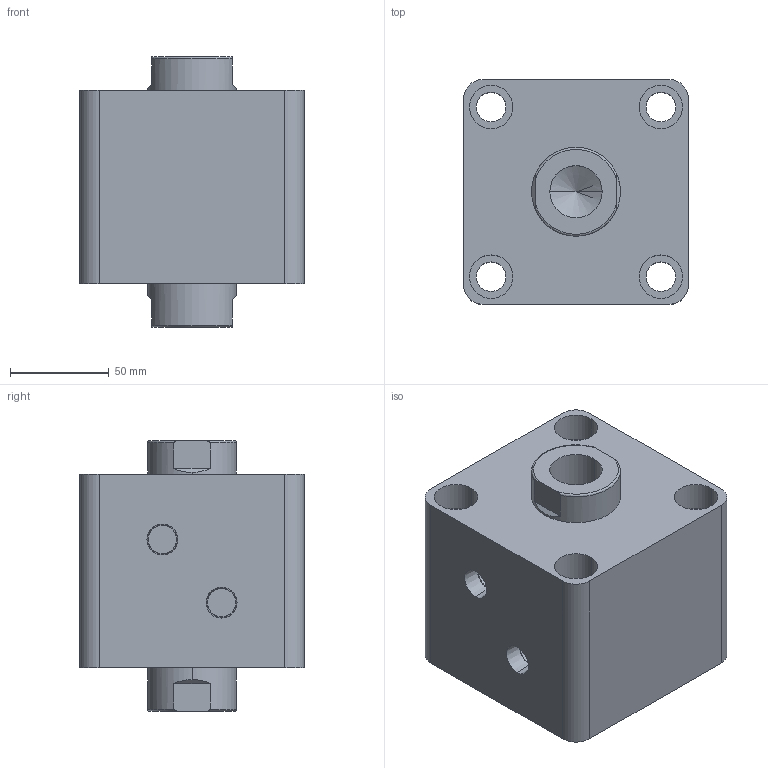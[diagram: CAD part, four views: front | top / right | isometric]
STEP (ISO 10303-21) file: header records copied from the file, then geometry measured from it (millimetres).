
FILE_DESCRIPTION (( 'STEP AP203' ), '1' );
FILE_NAME ('HTB-SW80-5N.STEP', '2019-10-07T10:18:12', ( '微软用户' ), ( '微软中国' ), 'SwSTEP 2.0', 'SolidWorks 2012', '' );
FILE_SCHEMA (( 'CONFIG_CONTROL_DESIGN' ));
Length unit declared in the file: millimetre
Products named in the file (3): HTB-SW80-5N; HTB-SW80-5N活塞杆; HTB-SW80-5掛极
Assembly tree (2 placements, depth 2):
  HTB-SW80-5N
    HTB-SW80-5掛极
    HTB-SW80-5N活塞杆
Bounding box: 114 x 114 x 137 mm (x, y, z)
Volume: 1180293.5 mm3; surface area: 148131.4 mm2
Topology: 2 solids, 2 shells, 100 faces, 228 edges, 146 vertices
Faces by surface type: cylinder 48, plane 32, torus 12, cone 8
Entity records: 3237 total; most frequent: CARTESIAN_POINT 595, DIRECTION 542, ORIENTED_EDGE 448, AXIS2_PLACEMENT_3D 229, EDGE_CURVE 224, VERTEX_POINT 146, EDGE_LOOP 128, CIRCLE 124
